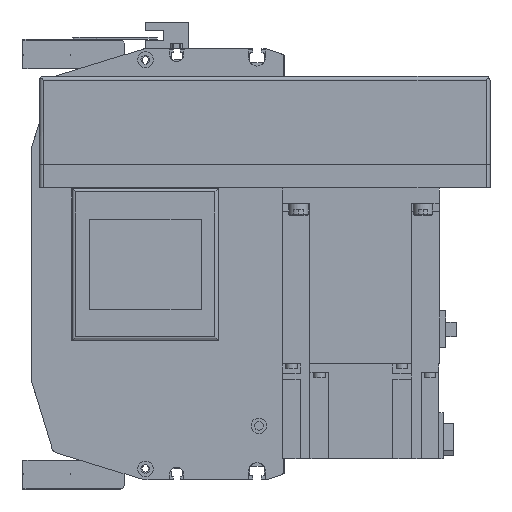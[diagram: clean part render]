
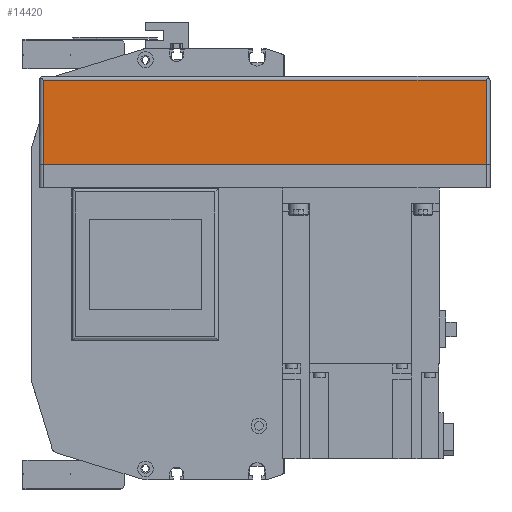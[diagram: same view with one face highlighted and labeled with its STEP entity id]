
A CAD part, left-side view. The second image highlights one B-rep face of the part: STEP entity #14420.
In plain terms, the highlighted planar face has unit normal (-1, 0, 0) as drawn and (0, -1, 0) by its records, which use the part's own axes.
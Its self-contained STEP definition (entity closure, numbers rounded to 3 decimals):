
#2339=ORIENTED_EDGE('',*,*,#5814,.F.);
#2340=ORIENTED_EDGE('',*,*,#5817,.T.);
#2341=ORIENTED_EDGE('',*,*,#5818,.T.);
#2342=ORIENTED_EDGE('',*,*,#5819,.F.);
#5814=EDGE_CURVE('',#7679,#7680,#9175,.T.);
#5817=EDGE_CURVE('',#7679,#7682,#9177,.T.);
#5818=EDGE_CURVE('',#7682,#7683,#9178,.T.);
#5819=EDGE_CURVE('',#7680,#7683,#9179,.T.);
#7679=VERTEX_POINT('',#22449);
#7680=VERTEX_POINT('',#22451);
#7682=VERTEX_POINT('',#22457);
#7683=VERTEX_POINT('',#22459);
#9175=LINE('',#22450,#10520);
#9177=LINE('',#22456,#10522);
#9178=LINE('',#22458,#10523);
#9179=LINE('',#22460,#10524);
#10520=VECTOR('',#17932,1000.);
#10522=VECTOR('',#17938,1000.);
#10523=VECTOR('',#17939,1000.);
#10524=VECTOR('',#17940,1000.);
#11690=EDGE_LOOP('',(#2339,#2340,#2341,#2342));
#12819=FACE_BOUND('',#11690,.T.);
#13804=PLANE('',#15460);
#14420=ADVANCED_FACE('',(#12819),#13804,.T.);
#15460=AXIS2_PLACEMENT_3D('',#22455,#17936,#17937);
#17932=DIRECTION('',(0.,0.,1.));
#17936=DIRECTION('',(0.,-1.,0.));
#17937=DIRECTION('',(0.,0.,-1.));
#17938=DIRECTION('',(1.,0.,0.));
#17939=DIRECTION('',(0.,0.,1.));
#17940=DIRECTION('',(1.,0.,0.));
#22449=CARTESIAN_POINT('',(-228.,-54.,-55.));
#22450=CARTESIAN_POINT('',(-228.,-54.,-57.));
#22451=CARTESIAN_POINT('',(-228.,-54.,-12.));
#22455=CARTESIAN_POINT('',(-228.,-54.,-57.));
#22456=CARTESIAN_POINT('',(-230.,-54.,-55.));
#22457=CARTESIAN_POINT('',(-2.,-54.,-55.));
#22458=CARTESIAN_POINT('',(-2.,-54.,-57.));
#22459=CARTESIAN_POINT('',(-2.,-54.,-12.));
#22460=CARTESIAN_POINT('',(-228.,-54.,-12.));
